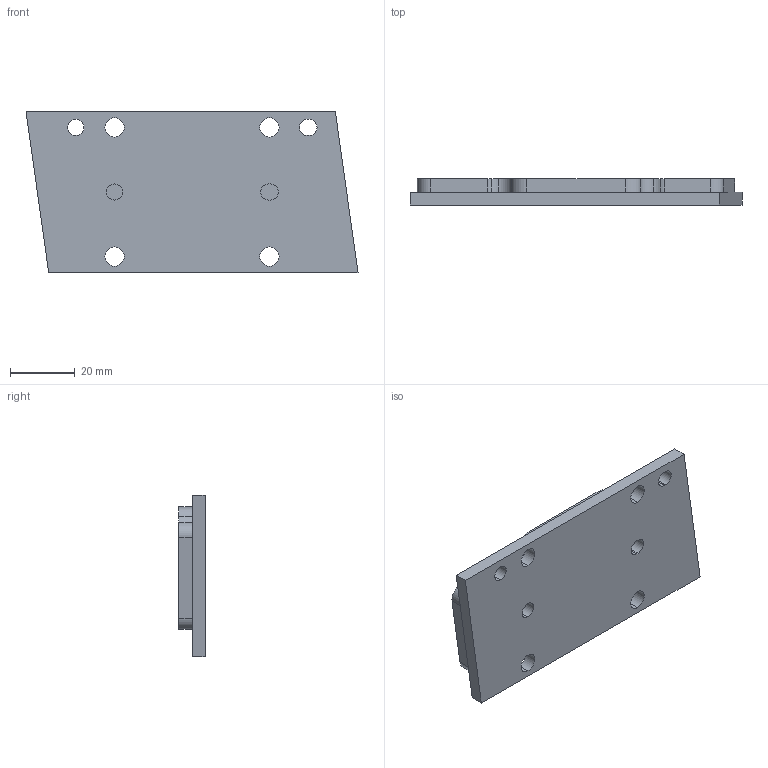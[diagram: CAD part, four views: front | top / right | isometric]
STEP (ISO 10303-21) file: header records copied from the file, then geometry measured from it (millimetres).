
FILE_DESCRIPTION (( 'STEP AP214' ), '1' );
FILE_NAME ('Magnet Plate TD55 96mm.STEP', '2025-03-07T09:32:48', ( '' ), ( '' ), 'SwSTEP 2.0', 'SolidWorks 2023', '' );
FILE_SCHEMA (( 'AUTOMOTIVE_DESIGN' ));
Length unit declared in the file: millimetre
Products named in the file (1): Magnet Plate TD55 96mm
Bounding box: 102.88 x 8.17 x 50 mm (x, y, z)
Volume: 32132.9 mm3; surface area: 12069.7 mm2
Topology: 1 solids, 1 shells, 55 faces, 150 edges, 100 vertices
Faces by surface type: cylinder 34, plane 21
Entity records: 2424 total; most frequent: DIRECTION 330, CARTESIAN_POINT 306, ORIENTED_EDGE 300, EDGE_CURVE 150, AXIS2_PLACEMENT_3D 124, VERTEX_POINT 100, VECTOR 82, LINE 82
